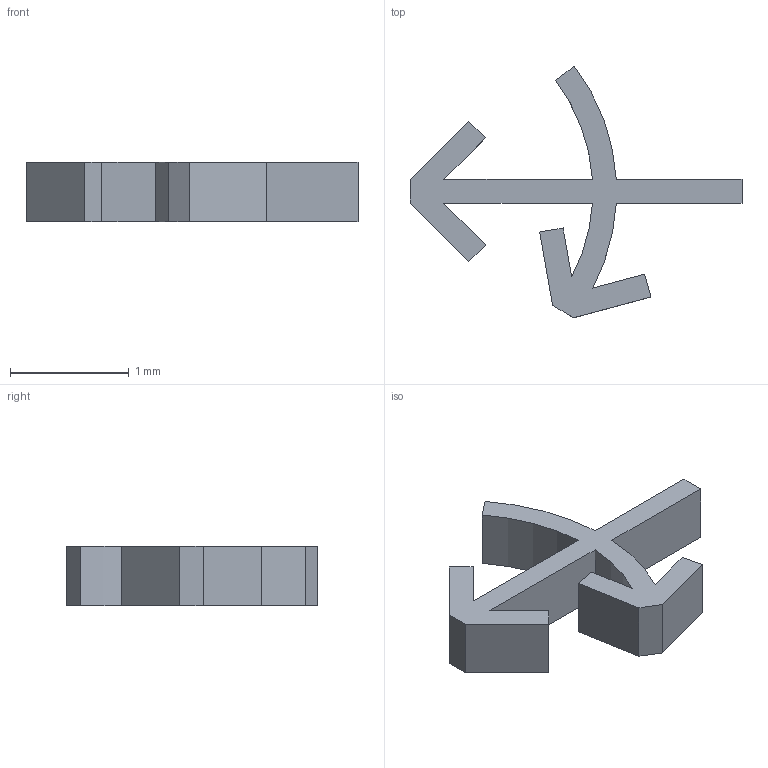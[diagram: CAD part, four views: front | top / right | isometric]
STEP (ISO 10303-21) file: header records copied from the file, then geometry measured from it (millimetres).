
FILE_DESCRIPTION(/* description */ ('STEP AP242 Edition 2','CAx-IF Rec.Pracs.---Representation and Presentation of Product Manufacturing Information (PMI)---4.0---2014-10-13','CAx-IF Rec.Pracs.---3D Tessellated Geometry---0.4---2014-09-14','2;1','CAx-IF Rec.Pracs.---User Defined Attributes---1.5---2016-08-15'),/* implementation_level */ '2;1');
FILE_NAME(/* name */ 'Drone Layout - Surface 285',/* time_stamp */ '2026-10-04T22:22:54Z',/* author */ (''),/* organization */ (''),/* preprocessor_version */ 'ST-DEVELOPER v20',/* originating_system */ 'ONSHAPE BY PTC INC, 1.221',/* authorisation */ ' ');
FILE_SCHEMA (('AP242_MANAGED_MODEL_BASED_3D_ENGINEERING_MIM_LF { 1 0 10303 442 3 1 4 }'));
Length unit declared in the file: metre
Products named in the file (1): Symb_Y
Bounding box: 2.8 x 2.12 x 0.5 mm (x, y, z)
Volume: 0.7 mm3; surface area: 9.9 mm2
Topology: 1 solids, 1 shells, 26 faces, 72 edges, 48 vertices
Faces by surface type: plane 22, cylinder 4
Entity records: 916 total; most frequent: CARTESIAN_POINT 147, ORIENTED_EDGE 144, DIRECTION 134, EDGE_CURVE 72, LINE 64, VECTOR 64, VERTEX_POINT 48, AXIS2_PLACEMENT_3D 35
